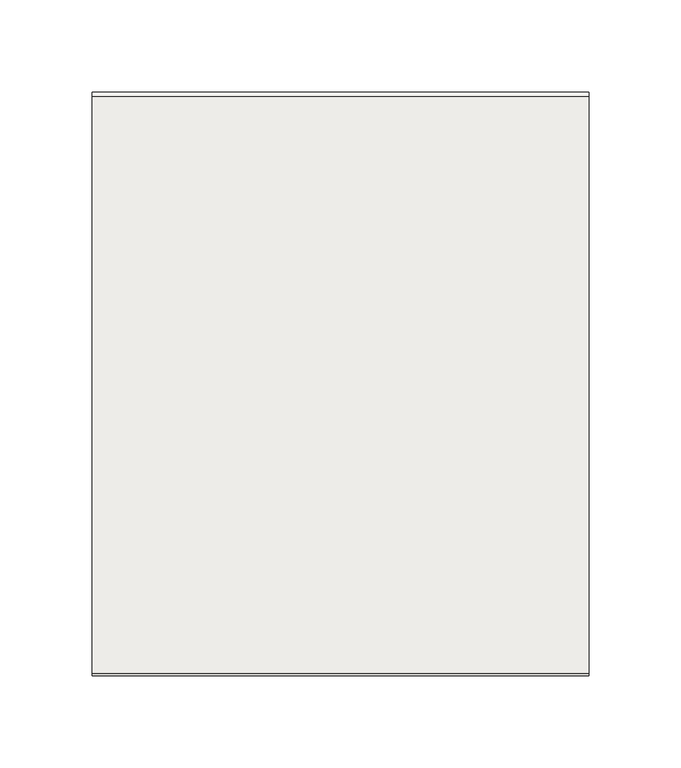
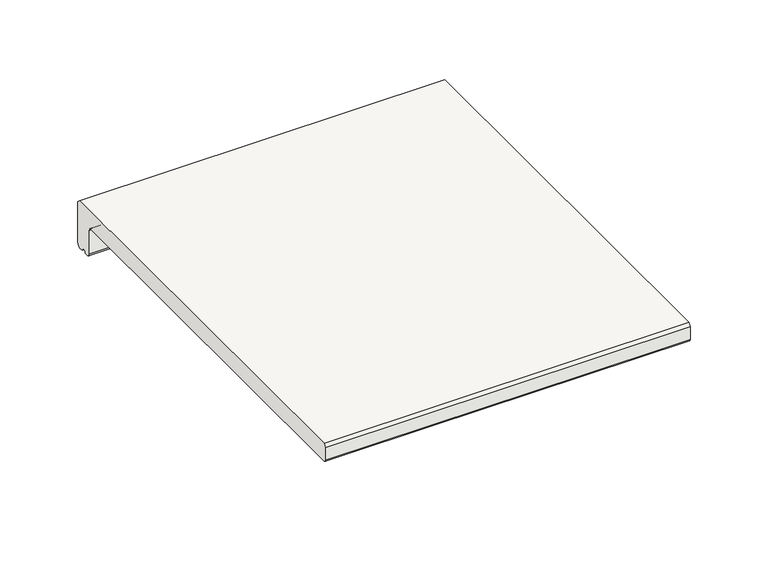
"""IFC4 building model written with IfcOpenShell, lengths in millimetres: slab geometry, ROSA GRES_L62 : Pieza L62_Serena_Ocra_Anti-Slip."""

import ifcopenshell
import ifcopenshell.guid

model = None  # the IFC model being written
_history = None  # IfcOwnerHistory: only IFC2X3 demands one
_inside = {}  # id of a spatial element -> (the spatial element, [elements in it])
_under = {}  # id of a project, library or spatial element -> (it, [spatial elements below it])
_declared = {}  # id of a project -> (the project, [libraries it declares])
_typed = {}  # id of a type object -> (the type object, [elements of that type])
_made_of = {}  # id of a material, layer set ... -> (it, [elements and type objects made of it])


def new_model(schema):
    """Start an empty IFC model of exactly this schema.

    Asked for "IFC4X3", IfcOpenShell would pick the latest addendum, in which some entities
    have other attributes; the version numbers below select the first issue.
    IFC2X3 requires an IfcOwnerHistory on every rooted entity: one is made here for all.
    """
    global model, _history
    if schema == "IFC4X3":
        model = ifcopenshell.file(schema_version=(4, 3, 0, 0))
    else:
        model = ifcopenshell.file(schema=schema)
    _inside.clear()
    _under.clear()
    _declared.clear()
    _typed.clear()
    _made_of.clear()
    _history = None
    if model.schema == "IFC2X3":
        org = make("IfcOrganization", Name="unknown")
        user = make(
            "IfcPersonAndOrganization",
            ThePerson=make("IfcPerson", FamilyName="unknown"),
            TheOrganization=org,
        )
        app = make(
            "IfcApplication",
            ApplicationDeveloper=org,
            Version="unknown",
            ApplicationFullName="unknown",
            ApplicationIdentifier="unknown",
        )
        _history = make(
            "IfcOwnerHistory",
            OwningUser=user,
            OwningApplication=app,
            ChangeAction="ADDED",
            CreationDate=0,
        )
    return model


def make(cls, **values):
    """One entity of the class cls with the attributes given. An attribute that is None is left unset."""
    return model.create_entity(
        cls, **{name: value for name, value in values.items() if value is not None}
    )


def rooted(cls, **values):
    """An entity with a GlobalId (a new one), such as an element, a storey or a relation."""
    return make(cls, GlobalId=ifcopenshell.guid.new(), OwnerHistory=_history, **values)


def si_unit(unit_type, name, prefix=None):
    """IfcSIUnit, for example si_unit("LENGTHUNIT", "METRE", prefix="MILLI")."""
    return make("IfcSIUnit", UnitType=unit_type, Prefix=prefix, Name=name)


def assignment(units):
    """IfcUnitAssignment: the units of a project."""
    return None if units is None else make("IfcUnitAssignment", Units=units)


def point(xyz):
    """IfcCartesianPoint."""
    return None if xyz is None else make("IfcCartesianPoint", Coordinates=xyz)


def direction(xyz):
    """IfcDirection."""
    return None if xyz is None else make("IfcDirection", DirectionRatios=xyz)


def frame(location, z_axis=None, x_axis=None):
    """IfcAxis2Placement3D, a coordinate frame: its origin and axes. An axis left out is left unset."""
    return make(
        "IfcAxis2Placement3D",
        Location=point(location),
        Axis=direction(z_axis),
        RefDirection=direction(x_axis),
    )


def frame_2d(location, x_axis=None):
    """IfcAxis2Placement2D, a coordinate frame in the plane: its origin and x axis."""
    return make(
        "IfcAxis2Placement2D", Location=point(location), RefDirection=direction(x_axis)
    )


def origin():
    """The frame at (0, 0, 0) with its axes left unset."""
    return frame((0.0, 0.0, 0.0))


def place(relative_to, where):
    """IfcLocalPlacement: puts the frame where relative to a parent placement (None: the world)."""
    return make(
        "IfcLocalPlacement", PlacementRelTo=relative_to, RelativePlacement=where
    )


def context(
    kind, dimensions, precision=None, world=None, true_north=None, identifier=None
):
    """IfcGeometricRepresentationContext, for example the 3D "Model" context."""
    return make(
        "IfcGeometricRepresentationContext",
        ContextIdentifier=identifier,
        ContextType=kind,
        CoordinateSpaceDimension=dimensions,
        Precision=precision,
        WorldCoordinateSystem=world,
        TrueNorth=true_north,
    )


def project(units=None, contexts=None):
    """IfcProject with its units and contexts."""
    return rooted(
        "IfcProject",
        Name="project",
        RepresentationContexts=contexts,
        UnitsInContext=assignment(units),
    )


def spatial(cls, under=None, at=None, **own):
    """A site, building, storey or space (cls), placed at a placement, below another one or the project."""
    s = rooted(cls, ObjectPlacement=at, **own)
    if under is not None:
        _under.setdefault(under.id(), (under, []))[1].append(s)
    return s


def polyline(points):
    """IfcPolyline through the points."""
    return make("IfcPolyline", Points=[point(p) for p in points])


def circle_curve(where, radius):
    """IfcCircle in the frame where."""
    return make("IfcCircle", Position=where, Radius=radius)


def trimmed(basis, trim1, trim2, sense, master):
    """IfcTrimmedCurve: the piece of a basis curve between two trims."""
    return make(
        "IfcTrimmedCurve",
        BasisCurve=basis,
        Trim1=trim1,
        Trim2=trim2,
        SenseAgreement=sense,
        MasterRepresentation=master,
    )


def segment(curve, same_sense, transition):
    """IfcCompositeCurveSegment."""
    return make(
        "IfcCompositeCurveSegment",
        Transition=transition,
        SameSense=same_sense,
        ParentCurve=curve,
    )


def composite_curve(segments, self_intersect=None):
    """IfcCompositeCurve: segments joined end to end."""
    return make("IfcCompositeCurve", Segments=segments, SelfIntersect=self_intersect)


def outline(outer, holes=None, kind="AREA"):
    """IfcArbitraryClosedProfileDef: a profile drawn as a closed curve; with holes, ...WithVoids."""
    if holes is None:
        return make("IfcArbitraryClosedProfileDef", ProfileType=kind, OuterCurve=outer)
    return make(
        "IfcArbitraryProfileDefWithVoids",
        ProfileType=kind,
        OuterCurve=outer,
        InnerCurves=holes,
    )


def extrude(swept, where, along, depth):
    """IfcExtrudedAreaSolid: the profile swept, set in the frame where, extruded along a direction by depth."""
    return make(
        "IfcExtrudedAreaSolid",
        SweptArea=swept,
        Position=where,
        ExtrudedDirection=direction(along),
        Depth=depth,
    )


def shape(context_of_items, identifier, shape_type, items):
    """IfcShapeRepresentation: the items that make up one representation, for example the "Body"."""
    return make(
        "IfcShapeRepresentation",
        ContextOfItems=context_of_items,
        RepresentationIdentifier=identifier,
        RepresentationType=shape_type,
        Items=items,
    )


def source(mapping_origin, context_of_items, identifier, shape_type, items):
    """IfcRepresentationMap: a shape defined once, which mapped items show again and again."""
    return make(
        "IfcRepresentationMap",
        MappingOrigin=mapping_origin,
        MappedRepresentation=shape(context_of_items, identifier, shape_type, items),
    )


def transform(
    local_origin,
    x_axis=None,
    y_axis=None,
    z_axis=None,
    scale=None,
    scale2=None,
    scale3=None,
    uniform=True,
):
    """IfcCartesianTransformationOperator3D, or its non-uniform kind. x_axis, y_axis, z_axis: its Axis1, 2, 3."""
    if uniform:
        return make(
            "IfcCartesianTransformationOperator3D",
            Axis1=direction(x_axis),
            Axis2=direction(y_axis),
            LocalOrigin=point(local_origin),
            Scale=scale,
            Axis3=direction(z_axis),
        )
    return make(
        "IfcCartesianTransformationOperator3DnonUniform",
        Axis1=direction(x_axis),
        Axis2=direction(y_axis),
        LocalOrigin=point(local_origin),
        Scale=scale,
        Axis3=direction(z_axis),
        Scale2=scale2,
        Scale3=scale3,
    )


def mapped(mapping_source, mapping_target):
    """IfcMappedItem: shows the shape of a source again, moved by a transform."""
    return make(
        "IfcMappedItem", MappingSource=mapping_source, MappingTarget=mapping_target
    )


def made_of(thing, what):
    """Note that an element or type object is made of a material, layer set ...; save() writes the relation."""
    if what is not None:
        _made_of.setdefault(what.id(), (what, []))[1].append(thing)
    return thing


def element(
    cls,
    number,
    at=None,
    inside=None,
    cuts=None,
    type_object=None,
    material=None,
    context=None,
    identifier="Body",
    shape_type=None,
    held_by="IfcProductDefinitionShape",
    body=None,
    shapes=None,
    **own,
):
    """One element of the class cls, such as IfcWall. Its Tag is "e" and its number.

    at: its placement. inside: the storey or other place that contains it. cuts: it is an
    opening in that element (IfcRelVoidsElement). A single representation is given by context,
    identifier, shape_type and body (its items); several are given by shapes. held_by: the class
    of the entity that holds the representations. save() writes the other relations.
    """
    e = rooted(cls, Tag="e%d" % number, ObjectPlacement=at, **own)
    if body is not None:
        shapes = [shape(context, identifier, shape_type, body)]
    if shapes is not None:
        e.Representation = make(held_by, Representations=shapes)
    if inside is not None:
        _inside.setdefault(inside.id(), (inside, []))[1].append(e)
    if cuts is not None:
        rooted(
            "IfcRelVoidsElement", RelatingBuildingElement=cuts, RelatedOpeningElement=e
        )
    if type_object is not None:
        _typed.setdefault(type_object.id(), (type_object, []))[1].append(e)
    return made_of(e, material)


def aggregate(whole, parts):
    """IfcRelAggregates: a whole, such as a stair, and the parts it consists of."""
    return rooted("IfcRelAggregates", RelatingObject=whole, RelatedObjects=parts)


def save(model, path):
    """Write the relations noted so far, then the file.

    IfcRelAggregates (storeys below a building ...), IfcRelContainedInSpatialStructure (elements
    in a storey), IfcRelDefinesByType, IfcRelAssociatesMaterial and IfcRelDeclares: one each for
    every whole, place, type object, material and project.
    """
    for whole, parts in _under.values():
        aggregate(whole, parts)
    for where, things in _inside.values():
        rooted(
            "IfcRelContainedInSpatialStructure",
            RelatedElements=things,
            RelatingStructure=where,
        )
    for kind, things in _typed.values():
        rooted("IfcRelDefinesByType", RelatedObjects=things, RelatingType=kind)
    for what, things in _made_of.values():
        rooted("IfcRelAssociatesMaterial", RelatedObjects=things, RelatingMaterial=what)
    for by, libraries in _declared.values():
        rooted("IfcRelDeclares", RelatingContext=by, RelatedDefinitions=libraries)
    model.write(path)


def slab_ec1b78f0(model_context):
    return source(origin(), model_context, "Body", "SweptSolid", [
        extrude(outline(composite_curve([segment(trimmed(circle_curve(frame_2d((-12.1001991, -35.1001991)), 1.8998009), [point((-12.1001991, -37.0))], [point((-14.0, -35.1001991))], False, "CARTESIAN"), True, "CONTINUOUS"), segment(polyline([(-14.0, -35.1001991), (-14.0, -16.5836242)]), True, "CONTINUOUS"), segment(trimmed(circle_curve(frame_2d((-16.6422322, -16.5836242)), 2.6422322), [point((-14.0, -16.5836242))], [point((-16.6422322, -13.9413919))], True, "CARTESIAN"), True, "CONTINUOUS"), segment(polyline([(-16.6422322, -13.9413919), (-315.5234432, -13.9413919)]), True, "CONTINUOUS"), segment(trimmed(circle_curve(frame_2d((-315.5234432, -12.4648352)), 1.4765568), [point((-315.5234432, -13.9413919))], [point((-317.0, -12.4648352))], False, "CARTESIAN"), True, "CONTINUOUS"), segment(polyline([(-317.0, -12.4648352), (-317.0, -2.5), (-315.5, 0.0), (-2.5, 0.0), (0.0, -2.5), (0.0, -34.5)]), True, "CONTINUOUS"), segment(trimmed(circle_curve(frame_2d((-2.5, -34.5)), 2.5), [point((0.0, -34.5))], [point((-2.5, -37.0))], False, "CARTESIAN"), True, "CONTINUOUS"), segment(polyline([(-2.5, -37.0), (-5.422949, -37.0)]), True, "CONTINUOUS"), segment(trimmed(circle_curve(frame_2d((-7.4142134, -37.0)), 1.9912643), [point((-5.422949, -37.0))], [point((-9.4054777, -37.0))], True, "CARTESIAN"), True, "CONTINUOUS"), segment(polyline([(-9.4054777, -37.0), (-12.1001991, -37.0)]), True, "CONTINUOUS")], self_intersect=False)), frame((0.0, 0.0, 0.0), z_axis=(1.0, 0.0, 0.0), x_axis=(0.0, 1.0, 0.0)), (0.0, 0.0, 1.0), 270.0),
    ])


if __name__ == "__main__":
    model = new_model("IFC4")
    model_context = context("Model", 3, world=origin())
    ifc_project = project(units=[si_unit("LENGTHUNIT", "METRE", prefix="MILLI")], contexts=[model_context])
    site = spatial("IfcSite", under=ifc_project)
    building = spatial("IfcBuilding", under=site)
    placement = place(None, origin())
    slab_shape = slab_ec1b78f0(model_context)
    element("IfcSlab", 1, ObjectType="ROSA GRES_L62 : Pieza L62_Serena_Ocra_Anti-Slip", at=placement, inside=building, context=model_context, shape_type="MappedRepresentation", body=[
        mapped(slab_shape, transform((0.0, 0.0, 0.0), x_axis=(1.0, 0.0, 0.0), y_axis=(0.0, 1.0, 0.0), z_axis=(0.0, 0.0, 1.0))),
    ])
    save(model, "model.ifc")
